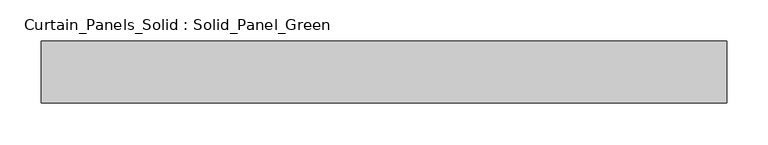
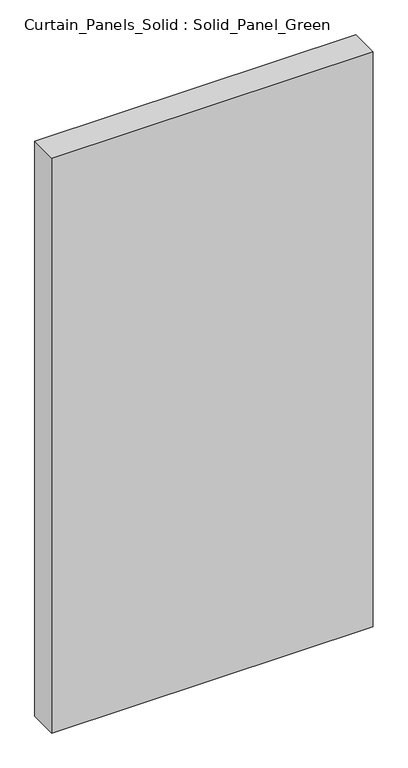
"""IFC4 building model written with IfcOpenShell, lengths in millimetres: plate geometry, Curtain_Panels_Solid : Solid_Panel_Green."""

from ifc_helpers import new_model, si_unit, origin, origin_with_axes, place, context, project, spatial, polyline, outline, extrude, source, transform, mapped, element, save


def curtain_panels_solid_solid_panel_green_532d5a67(model_context):
    return source(origin(), model_context, "Body", "SweptSolid", [
        extrude(outline(polyline([(414.1250001, -25.0), (-414.1250001, -25.0), (-414.1250001, 50.0), (414.1250001, 50.0), (414.1250001, -25.0)])), origin_with_axes(), (0.0, 0.0, 1.0), 1565.625),
    ])


if __name__ == "__main__":
    model = new_model("IFC4")
    model_context = context("Model", 3, world=origin())
    ifc_project = project(units=[si_unit("LENGTHUNIT", "METRE", prefix="MILLI")], contexts=[model_context])
    site = spatial("IfcSite", under=ifc_project)
    building = spatial("IfcBuilding", under=site)
    placement = place(None, origin())
    curtain_panels_solid_solid_panel_green_shape = curtain_panels_solid_solid_panel_green_532d5a67(model_context)
    element("IfcPlate", 1, ObjectType="Curtain_Panels_Solid : Solid_Panel_Green", at=placement, inside=building, context=model_context, shape_type="MappedRepresentation", body=[
        mapped(curtain_panels_solid_solid_panel_green_shape, transform((0.0, 0.0, 0.0), x_axis=(1.0, 0.0, 0.0), y_axis=(0.0, 1.0, 0.0), z_axis=(0.0, 0.0, 1.0))),
    ])
    save(model, "model.ifc")
